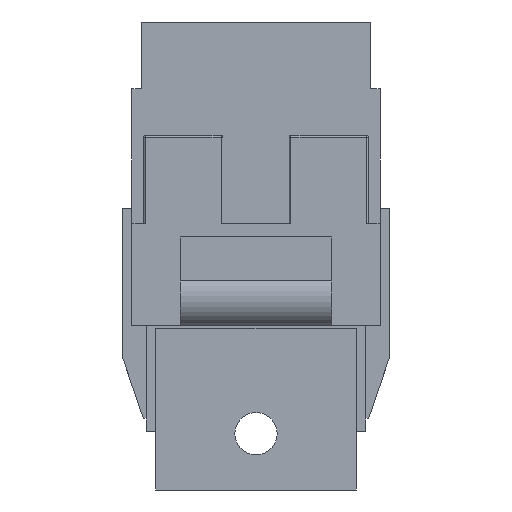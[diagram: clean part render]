
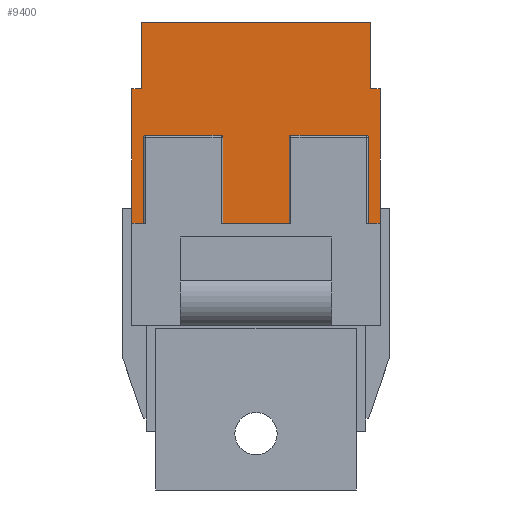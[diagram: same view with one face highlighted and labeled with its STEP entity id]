
A CAD part, front view. The second image highlights one B-rep face of the part: STEP entity #9400.
In plain terms, the highlighted planar face has unit normal (0, -1, 0).
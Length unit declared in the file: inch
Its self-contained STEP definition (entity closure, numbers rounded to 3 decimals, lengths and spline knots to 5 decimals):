
#138=CIRCLE('',#9948,0.01);
#139=CIRCLE('',#9951,0.01);
#141=CIRCLE('',#9960,0.01);
#142=CIRCLE('',#9961,0.01);
#535=FACE_OUTER_BOUND('',#1036,.T.);
#1036=EDGE_LOOP('',(#7116,#7117,#7118,#7119,#7120,#7121,#7122,#7123,#7124,
#7125,#7126,#7127,#7128,#7129,#7130,#7131,#7132,#7133,#7134,#7135,#7136,
#7137));
#1846=LINE('',#14730,#2927);
#1893=LINE('',#14837,#2974);
#1958=LINE('',#14987,#3039);
#1961=LINE('',#14992,#3042);
#1962=LINE('',#14994,#3043);
#1964=LINE('',#14998,#3045);
#1966=LINE('',#15002,#3047);
#1968=LINE('',#15006,#3049);
#1970=LINE('',#15010,#3051);
#1971=LINE('',#15012,#3052);
#1972=LINE('',#15014,#3053);
#1973=LINE('',#15016,#3054);
#1974=LINE('',#15018,#3055);
#1975=LINE('',#15020,#3056);
#1976=LINE('',#15021,#3057);
#1977=LINE('',#15023,#3058);
#1978=LINE('',#15027,#3059);
#1979=LINE('',#15030,#3060);
#2927=VECTOR('',#10818,0.3937);
#2974=VECTOR('',#10923,0.3937);
#3039=VECTOR('',#11060,0.3937);
#3042=VECTOR('',#11065,0.3937);
#3043=VECTOR('',#11068,0.3937);
#3045=VECTOR('',#11072,0.3937);
#3047=VECTOR('',#11076,0.3937);
#3049=VECTOR('',#11080,0.3937);
#3051=VECTOR('',#11084,0.3937);
#3052=VECTOR('',#11085,0.3937);
#3053=VECTOR('',#11086,0.3937);
#3054=VECTOR('',#11087,0.3937);
#3055=VECTOR('',#11088,0.3937);
#3056=VECTOR('',#11089,0.3937);
#3057=VECTOR('',#11090,0.3937);
#3058=VECTOR('',#11091,0.3937);
#3059=VECTOR('',#11094,0.3937);
#3060=VECTOR('',#11097,0.3937);
#4011=VERTEX_POINT('',#14721);
#4015=VERTEX_POINT('',#14728);
#4045=VERTEX_POINT('',#14834);
#4046=VERTEX_POINT('',#14836);
#4081=VERTEX_POINT('',#14948);
#4082=VERTEX_POINT('',#14949);
#4083=VERTEX_POINT('',#14957);
#4084=VERTEX_POINT('',#14958);
#4095=VERTEX_POINT('',#14986);
#4096=VERTEX_POINT('',#14990);
#4097=VERTEX_POINT('',#14996);
#4098=VERTEX_POINT('',#15001);
#4100=VERTEX_POINT('',#15009);
#4101=VERTEX_POINT('',#15011);
#4102=VERTEX_POINT('',#15013);
#4103=VERTEX_POINT('',#15015);
#4104=VERTEX_POINT('',#15017);
#4105=VERTEX_POINT('',#15019);
#4106=VERTEX_POINT('',#15022);
#4107=VERTEX_POINT('',#15024);
#4108=VERTEX_POINT('',#15026);
#4109=VERTEX_POINT('',#15028);
#5081=EDGE_CURVE('',#4011,#4015,#1846,.T.);
#5132=EDGE_CURVE('',#4046,#4045,#1893,.T.);
#5187=EDGE_CURVE('',#4081,#4082,#138,.F.);
#5192=EDGE_CURVE('',#4083,#4084,#139,.F.);
#5207=EDGE_CURVE('',#4095,#4084,#1958,.T.);
#5210=EDGE_CURVE('',#4081,#4096,#1961,.T.);
#5211=EDGE_CURVE('',#4083,#4082,#1962,.T.);
#5213=EDGE_CURVE('',#4096,#4097,#1964,.T.);
#5215=EDGE_CURVE('',#4098,#4046,#1966,.T.);
#5218=EDGE_CURVE('',#4045,#4095,#1968,.T.);
#5220=EDGE_CURVE('',#4100,#4097,#1970,.T.);
#5221=EDGE_CURVE('',#4100,#4101,#1971,.T.);
#5222=EDGE_CURVE('',#4101,#4102,#1972,.T.);
#5223=EDGE_CURVE('',#4103,#4102,#1973,.T.);
#5224=EDGE_CURVE('',#4103,#4104,#1974,.T.);
#5225=EDGE_CURVE('',#4104,#4105,#1975,.T.);
#5226=EDGE_CURVE('',#4011,#4105,#1976,.T.);
#5227=EDGE_CURVE('',#4015,#4106,#1977,.T.);
#5228=EDGE_CURVE('',#4107,#4106,#141,.F.);
#5229=EDGE_CURVE('',#4107,#4108,#1978,.T.);
#5230=EDGE_CURVE('',#4109,#4108,#142,.F.);
#5231=EDGE_CURVE('',#4109,#4098,#1979,.T.);
#7116=ORIENTED_EDGE('',*,*,#5207,.T.);
#7117=ORIENTED_EDGE('',*,*,#5192,.F.);
#7118=ORIENTED_EDGE('',*,*,#5211,.T.);
#7119=ORIENTED_EDGE('',*,*,#5187,.F.);
#7120=ORIENTED_EDGE('',*,*,#5210,.T.);
#7121=ORIENTED_EDGE('',*,*,#5213,.T.);
#7122=ORIENTED_EDGE('',*,*,#5220,.F.);
#7123=ORIENTED_EDGE('',*,*,#5221,.T.);
#7124=ORIENTED_EDGE('',*,*,#5222,.T.);
#7125=ORIENTED_EDGE('',*,*,#5223,.F.);
#7126=ORIENTED_EDGE('',*,*,#5224,.T.);
#7127=ORIENTED_EDGE('',*,*,#5225,.T.);
#7128=ORIENTED_EDGE('',*,*,#5226,.F.);
#7129=ORIENTED_EDGE('',*,*,#5081,.T.);
#7130=ORIENTED_EDGE('',*,*,#5227,.T.);
#7131=ORIENTED_EDGE('',*,*,#5228,.F.);
#7132=ORIENTED_EDGE('',*,*,#5229,.T.);
#7133=ORIENTED_EDGE('',*,*,#5230,.F.);
#7134=ORIENTED_EDGE('',*,*,#5231,.T.);
#7135=ORIENTED_EDGE('',*,*,#5215,.T.);
#7136=ORIENTED_EDGE('',*,*,#5132,.T.);
#7137=ORIENTED_EDGE('',*,*,#5218,.T.);
#8938=PLANE('',#9959);
#9400=ADVANCED_FACE('',(#535),#8938,.T.);
#9948=AXIS2_PLACEMENT_3D('',#14950,#11030,#11031);
#9951=AXIS2_PLACEMENT_3D('',#14959,#11040,#11041);
#9959=AXIS2_PLACEMENT_3D('',#15008,#11082,#11083);
#9960=AXIS2_PLACEMENT_3D('',#15025,#11092,#11093);
#9961=AXIS2_PLACEMENT_3D('',#15029,#11095,#11096);
#10818=DIRECTION('',(1.,0.,0.));
#10923=DIRECTION('',(1.,0.,0.));
#11030=DIRECTION('center_axis',(0.,1.,0.));
#11031=DIRECTION('ref_axis',(0.707,0.,0.707));
#11040=DIRECTION('center_axis',(0.,1.,0.));
#11041=DIRECTION('ref_axis',(-0.707,0.,0.707));
#11060=DIRECTION('',(0.,0.,1.));
#11065=DIRECTION('',(0.,0.,-1.));
#11068=DIRECTION('',(1.,0.,0.));
#11072=DIRECTION('',(1.,0.,0.));
#11076=DIRECTION('',(1.,0.,0.));
#11080=DIRECTION('',(1.,0.,0.));
#11082=DIRECTION('center_axis',(0.,-1.,0.));
#11083=DIRECTION('ref_axis',(0.,0.,-1.));
#11084=DIRECTION('',(0.,0.,-1.));
#11085=DIRECTION('',(-1.,0.,0.));
#11086=DIRECTION('',(0.,0.,1.));
#11087=DIRECTION('',(1.,0.,0.));
#11088=DIRECTION('',(0.,0.,-1.));
#11089=DIRECTION('',(-1.,0.,0.));
#11090=DIRECTION('',(0.,0.,1.));
#11091=DIRECTION('',(0.,0.,1.));
#11092=DIRECTION('center_axis',(0.,1.,0.));
#11093=DIRECTION('ref_axis',(-0.707,0.,0.707));
#11094=DIRECTION('',(1.,0.,0.));
#11095=DIRECTION('center_axis',(0.,1.,0.));
#11096=DIRECTION('ref_axis',(0.707,0.,0.707));
#11097=DIRECTION('',(0.,0.,-1.));
#14721=CARTESIAN_POINT('',(-0.7055,0.,-0.4575));
#14728=CARTESIAN_POINT('',(-0.6385,0.,-0.4575));
#14730=CARTESIAN_POINT('',(-0.35275,0.,-0.4575));
#14834=CARTESIAN_POINT('',(0.1285,0.,-0.4575));
#14836=CARTESIAN_POINT('',(-0.1285,0.,-0.4575));
#14837=CARTESIAN_POINT('',(-0.35275,0.,-0.4575));
#14948=CARTESIAN_POINT('',(0.6385,0.,0.0325));
#14949=CARTESIAN_POINT('',(0.6285,0.,0.0425));
#14950=CARTESIAN_POINT('Origin',(0.6285,0.,0.0325));
#14957=CARTESIAN_POINT('',(0.1985,0.,0.0425));
#14958=CARTESIAN_POINT('',(0.1885,0.,0.0325));
#14959=CARTESIAN_POINT('Origin',(0.1985,0.,0.0325));
#14986=CARTESIAN_POINT('',(0.1885,0.,-0.4575));
#14987=CARTESIAN_POINT('',(0.1885,0.,-0.22875));
#14990=CARTESIAN_POINT('',(0.6385,0.,-0.4575));
#14992=CARTESIAN_POINT('',(0.6385,0.,-0.22875));
#14994=CARTESIAN_POINT('',(0.20675,0.,0.0425));
#14996=CARTESIAN_POINT('',(0.7055,0.,-0.4575));
#14998=CARTESIAN_POINT('',(-0.35275,0.,-0.4575));
#15001=CARTESIAN_POINT('',(-0.1885,0.,-0.4575));
#15002=CARTESIAN_POINT('',(-0.35275,0.,-0.4575));
#15006=CARTESIAN_POINT('',(-0.35275,0.,-0.4575));
#15008=CARTESIAN_POINT('Origin',(0.,0.,0.));
#15009=CARTESIAN_POINT('',(0.7055,0.,0.3095));
#15010=CARTESIAN_POINT('',(0.7055,0.,0.6875));
#15011=CARTESIAN_POINT('',(0.6515,0.,0.3095));
#15012=CARTESIAN_POINT('',(0.35275,0.,0.3095));
#15013=CARTESIAN_POINT('',(0.6515,0.,0.6875));
#15014=CARTESIAN_POINT('',(0.6515,0.,0.15475));
#15015=CARTESIAN_POINT('',(-0.6515,0.,0.6875));
#15016=CARTESIAN_POINT('',(-0.7055,0.,0.6875));
#15017=CARTESIAN_POINT('',(-0.6515,0.,0.3095));
#15018=CARTESIAN_POINT('',(-0.6515,0.,0.15475));
#15019=CARTESIAN_POINT('',(-0.7055,0.,0.3095));
#15020=CARTESIAN_POINT('',(-0.35275,0.,0.3095));
#15021=CARTESIAN_POINT('',(-0.7055,0.,-0.6875));
#15022=CARTESIAN_POINT('',(-0.6385,0.,0.0325));
#15023=CARTESIAN_POINT('',(-0.6385,0.,-0.22875));
#15024=CARTESIAN_POINT('',(-0.6285,0.,0.0425));
#15025=CARTESIAN_POINT('Origin',(-0.6285,0.,0.0325));
#15026=CARTESIAN_POINT('',(-0.1985,0.,0.0425));
#15027=CARTESIAN_POINT('',(-0.20675,0.,0.0425));
#15028=CARTESIAN_POINT('',(-0.1885,0.,0.0325));
#15029=CARTESIAN_POINT('Origin',(-0.1985,0.,0.0325));
#15030=CARTESIAN_POINT('',(-0.1885,0.,-0.22875));
